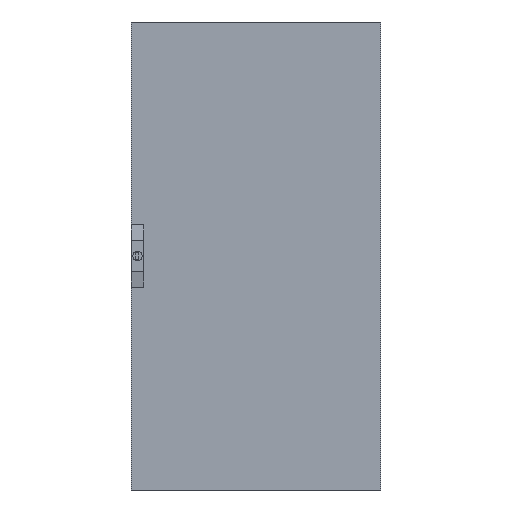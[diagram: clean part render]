
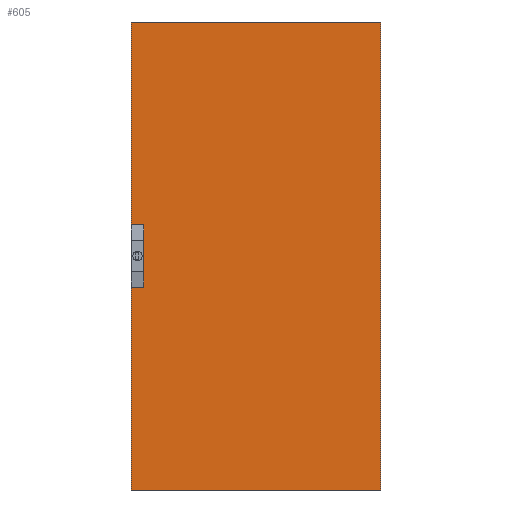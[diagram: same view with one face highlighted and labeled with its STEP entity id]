
A CAD part, front view. The second image highlights one B-rep face of the part: STEP entity #605.
In plain terms, the highlighted planar face has unit normal (0, -1, 0).
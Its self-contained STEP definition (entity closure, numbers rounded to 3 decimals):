
#389 = EDGE_CURVE('',#390,#392,#394,.T.);
#390 = VERTEX_POINT('',#391);
#391 = CARTESIAN_POINT('',(0.,0.,0.));
#392 = VERTEX_POINT('',#393);
#393 = CARTESIAN_POINT('',(0.,0.,1500.));
#394 = SURFACE_CURVE('',#395,(#399,#411),.PCURVE_S1.);
#395 = LINE('',#396,#397);
#396 = CARTESIAN_POINT('',(0.,0.,0.));
#397 = VECTOR('',#398,1.);
#398 = DIRECTION('',(0.,0.,1.));
#399 = PCURVE('',#400,#405);
#400 = PLANE('',#401);
#401 = AXIS2_PLACEMENT_3D('',#402,#403,#404);
#402 = CARTESIAN_POINT('',(0.,0.,0.));
#403 = DIRECTION('',(1.,0.,-0.));
#404 = DIRECTION('',(0.,0.,1.));
#405 = DEFINITIONAL_REPRESENTATION('',(#406),#410);
#406 = LINE('',#407,#408);
#407 = CARTESIAN_POINT('',(0.,0.));
#408 = VECTOR('',#409,1.);
#409 = DIRECTION('',(1.,0.));
#410 = ( GEOMETRIC_REPRESENTATION_CONTEXT(2) 
PARAMETRIC_REPRESENTATION_CONTEXT() REPRESENTATION_CONTEXT('2D SPACE',''
  ) );
#411 = PCURVE('',#412,#417);
#412 = PLANE('',#413);
#413 = AXIS2_PLACEMENT_3D('',#414,#415,#416);
#414 = CARTESIAN_POINT('',(0.,0.,0.));
#415 = DIRECTION('',(-0.,1.,0.));
#416 = DIRECTION('',(0.,0.,1.));
#417 = DEFINITIONAL_REPRESENTATION('',(#418),#422);
#418 = LINE('',#419,#420);
#419 = CARTESIAN_POINT('',(0.,0.));
#420 = VECTOR('',#421,1.);
#421 = DIRECTION('',(1.,0.));
#422 = ( GEOMETRIC_REPRESENTATION_CONTEXT(2) 
PARAMETRIC_REPRESENTATION_CONTEXT() REPRESENTATION_CONTEXT('2D SPACE',''
  ) );
#440 = PLANE('',#441);
#441 = AXIS2_PLACEMENT_3D('',#442,#443,#444);
#442 = CARTESIAN_POINT('',(0.,0.,0.));
#443 = DIRECTION('',(0.,0.,1.));
#444 = DIRECTION('',(1.,0.,-0.));
#494 = PLANE('',#495);
#495 = AXIS2_PLACEMENT_3D('',#496,#497,#498);
#496 = CARTESIAN_POINT('',(0.,0.,1500.));
#497 = DIRECTION('',(0.,0.,1.));
#498 = DIRECTION('',(1.,0.,-0.));
#509 = EDGE_CURVE('',#510,#512,#514,.T.);
#510 = VERTEX_POINT('',#511);
#511 = CARTESIAN_POINT('',(800.,0.,0.));
#512 = VERTEX_POINT('',#513);
#513 = CARTESIAN_POINT('',(800.,0.,1500.));
#514 = SURFACE_CURVE('',#515,(#519,#531),.PCURVE_S1.);
#515 = LINE('',#516,#517);
#516 = CARTESIAN_POINT('',(800.,0.,0.));
#517 = VECTOR('',#518,1.);
#518 = DIRECTION('',(0.,0.,1.));
#519 = PCURVE('',#520,#525);
#520 = PLANE('',#521);
#521 = AXIS2_PLACEMENT_3D('',#522,#523,#524);
#522 = CARTESIAN_POINT('',(800.,0.,0.));
#523 = DIRECTION('',(1.,0.,-0.));
#524 = DIRECTION('',(0.,0.,1.));
#525 = DEFINITIONAL_REPRESENTATION('',(#526),#530);
#526 = LINE('',#527,#528);
#527 = CARTESIAN_POINT('',(0.,0.));
#528 = VECTOR('',#529,1.);
#529 = DIRECTION('',(1.,0.));
#530 = ( GEOMETRIC_REPRESENTATION_CONTEXT(2) 
PARAMETRIC_REPRESENTATION_CONTEXT() REPRESENTATION_CONTEXT('2D SPACE',''
  ) );
#531 = PCURVE('',#412,#532);
#532 = DEFINITIONAL_REPRESENTATION('',(#533),#537);
#533 = LINE('',#534,#535);
#534 = CARTESIAN_POINT('',(0.,800.));
#535 = VECTOR('',#536,1.);
#536 = DIRECTION('',(1.,0.));
#537 = ( GEOMETRIC_REPRESENTATION_CONTEXT(2) 
PARAMETRIC_REPRESENTATION_CONTEXT() REPRESENTATION_CONTEXT('2D SPACE',''
  ) );
#605 = ADVANCED_FACE('',(#606),#412,.F.);
#606 = FACE_BOUND('',#607,.F.);
#607 = EDGE_LOOP('',(#608,#629,#630,#651));
#608 = ORIENTED_EDGE('',*,*,#609,.F.);
#609 = EDGE_CURVE('',#390,#510,#610,.T.);
#610 = SURFACE_CURVE('',#611,(#615,#622),.PCURVE_S1.);
#611 = LINE('',#612,#613);
#612 = CARTESIAN_POINT('',(0.,0.,0.));
#613 = VECTOR('',#614,1.);
#614 = DIRECTION('',(1.,0.,-0.));
#615 = PCURVE('',#412,#616);
#616 = DEFINITIONAL_REPRESENTATION('',(#617),#621);
#617 = LINE('',#618,#619);
#618 = CARTESIAN_POINT('',(0.,0.));
#619 = VECTOR('',#620,1.);
#620 = DIRECTION('',(0.,1.));
#621 = ( GEOMETRIC_REPRESENTATION_CONTEXT(2) 
PARAMETRIC_REPRESENTATION_CONTEXT() REPRESENTATION_CONTEXT('2D SPACE',''
  ) );
#622 = PCURVE('',#440,#623);
#623 = DEFINITIONAL_REPRESENTATION('',(#624),#628);
#624 = LINE('',#625,#626);
#625 = CARTESIAN_POINT('',(0.,0.));
#626 = VECTOR('',#627,1.);
#627 = DIRECTION('',(1.,0.));
#628 = ( GEOMETRIC_REPRESENTATION_CONTEXT(2) 
PARAMETRIC_REPRESENTATION_CONTEXT() REPRESENTATION_CONTEXT('2D SPACE',''
  ) );
#629 = ORIENTED_EDGE('',*,*,#389,.T.);
#630 = ORIENTED_EDGE('',*,*,#631,.T.);
#631 = EDGE_CURVE('',#392,#512,#632,.T.);
#632 = SURFACE_CURVE('',#633,(#637,#644),.PCURVE_S1.);
#633 = LINE('',#634,#635);
#634 = CARTESIAN_POINT('',(0.,0.,1500.));
#635 = VECTOR('',#636,1.);
#636 = DIRECTION('',(1.,0.,-0.));
#637 = PCURVE('',#412,#638);
#638 = DEFINITIONAL_REPRESENTATION('',(#639),#643);
#639 = LINE('',#640,#641);
#640 = CARTESIAN_POINT('',(1500.,0.));
#641 = VECTOR('',#642,1.);
#642 = DIRECTION('',(0.,1.));
#643 = ( GEOMETRIC_REPRESENTATION_CONTEXT(2) 
PARAMETRIC_REPRESENTATION_CONTEXT() REPRESENTATION_CONTEXT('2D SPACE',''
  ) );
#644 = PCURVE('',#494,#645);
#645 = DEFINITIONAL_REPRESENTATION('',(#646),#650);
#646 = LINE('',#647,#648);
#647 = CARTESIAN_POINT('',(0.,0.));
#648 = VECTOR('',#649,1.);
#649 = DIRECTION('',(1.,0.));
#650 = ( GEOMETRIC_REPRESENTATION_CONTEXT(2) 
PARAMETRIC_REPRESENTATION_CONTEXT() REPRESENTATION_CONTEXT('2D SPACE',''
  ) );
#651 = ORIENTED_EDGE('',*,*,#509,.F.);
